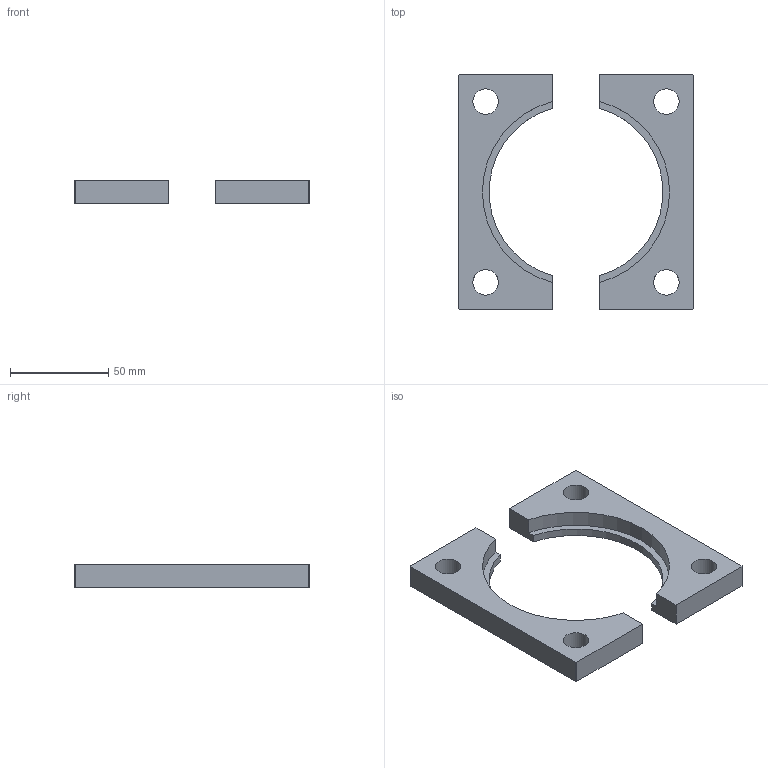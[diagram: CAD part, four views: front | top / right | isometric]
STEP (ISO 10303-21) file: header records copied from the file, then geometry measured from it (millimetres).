
FILE_DESCRIPTION(/* description */ (''),/* implementation_level */ '2;1');
FILE_NAME(/* name */ 'C:\Users\Jefferson\Desktop\Biblioteca Pro Nitro 2024\Flanges\PNB-55-XXX\PNB-55-095.stp',/* time_stamp */ '2024-01-26T15:35:30-03:00',/* author */ ('Jefferson'),/* organization */ (''),/* preprocessor_version */ 'ST-DEVELOPER v18.1',/* originating_system */ 'Autodesk Inventor 2021',/* authorisation */ '');
FILE_SCHEMA (('AUTOMOTIVE_DESIGN { 1 0 10303 214 3 1 1 }'));
Length unit declared in the file: millimetre
Products named in the file (1): PNB-55-095
Bounding box: 120 x 120 x 12 mm (x, y, z)
Volume: 76776.9 mm3; surface area: 24671.4 mm2
Topology: 2 solids, 2 shells, 194 faces, 525 edges, 350 vertices
Faces by surface type: plane 94, bspline 92, cylinder 8
Full cylindrical faces by diameter (mm): 13 x4
Entity records: 6593 total; most frequent: CARTESIAN_POINT 2266, ORIENTED_EDGE 1050, DIRECTION 563, EDGE_CURVE 525, VERTEX_POINT 350, LINE 325, VECTOR 325, EDGE_LOOP 217
